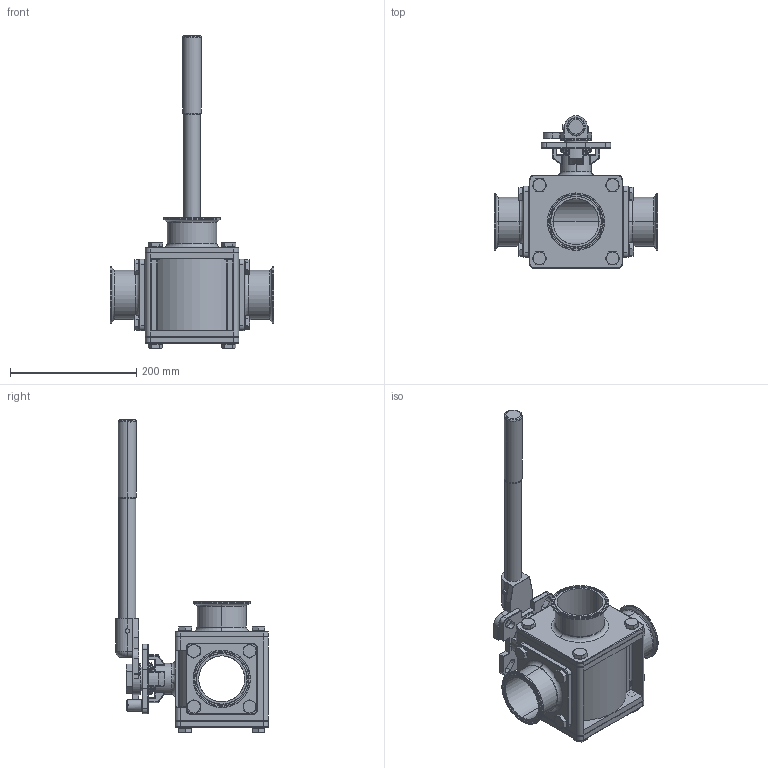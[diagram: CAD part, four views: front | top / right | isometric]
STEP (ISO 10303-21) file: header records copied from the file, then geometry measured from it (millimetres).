
FILE_DESCRIPTION (( 'STEP AP203' ), '1' );
FILE_NAME ('EG93CCC-63.0-T.STEP', '2019-07-02T02:30:24', ( '' ), ( '' ), 'SwSTEP 2.0', 'SolidWorks 2014', '' );
FILE_SCHEMA (( 'CONFIG_CONTROL_DESIGN' ));
Length unit declared in the file: millimetre
Products named in the file (27): 5.GASKET3.0; 8.STEM PACKING3.0-4.0; 17.LOCKING TAB3.0-4.0; 14.HANDLE3.0-4.0-2; 6.THRUST WASHER3.0-4.0; 18.THINNER NUT3.0-4.0; 22.SEAT-L-3.0; EG93CCC-63.0-T; 21.PLAIN WASHER3.0-4.0; 1.3WAY-BODY3.0; 7.O-RING3.0-4.0; 12.3WAY-NUT3.0-4.0; 14.HANDLE3.0-4.0-1; 11.STOP PIN3.0-4.0; 20.SEAT BACK3.0; 10.BEVEL WASHER3.0-4.0; 14.HANDLE2.5-4.0-3; 2.3WAY-CAP-C-3.0S; 2.3WAY-CAP-C-3.0B; 15.SPRING WASHER3.0; 9.RING3.0-4.0; 13.STEM3.0-4.0; 16.BOLT3.0; 3.3WAY-BALL-3.0-T; 4.SEAT1-3.0; 22.SEAT-R-3.0; 19.3WAY-CAP3.0
Assembly tree (60 placements, depth 2):
  EG93CCC-63.0-T
    1.3WAY-BODY3.0
    13.STEM3.0-4.0
    6.THRUST WASHER3.0-4.0
    7.O-RING3.0-4.0
    4.SEAT1-3.0  x2
    5.GASKET3.0  x2
    22.SEAT-L-3.0
    22.SEAT-R-3.0
    20.SEAT BACK3.0
    19.3WAY-CAP3.0
    16.BOLT3.0  x16
    15.SPRING WASHER3.0  x16
    2.3WAY-CAP-C-3.0S  x2
    2.3WAY-CAP-C-3.0B
    11.STOP PIN3.0-4.0
    8.STEM PACKING3.0-4.0
    9.RING3.0-4.0
    10.BEVEL WASHER3.0-4.0  x2
    18.THINNER NUT3.0-4.0
    17.LOCKING TAB3.0-4.0
    21.PLAIN WASHER3.0-4.0
    14.HANDLE3.0-4.0-1
    14.HANDLE3.0-4.0-2
    14.HANDLE2.5-4.0-3
    12.3WAY-NUT3.0-4.0
    3.3WAY-BALL-3.0-T
Bounding box: 260 x 242.39 x 495.7 mm (x, y, z)
Volume: 2907936.5 mm3; surface area: 806482.1 mm2
Topology: 61 solids, 61 shells, 1594 faces, 3589 edges, 2121 vertices
Faces by surface type: cylinder 572, plane 418, cone 266, torus 224, sphere 58, bspline 56
Entity records: 38320 total; most frequent: CARTESIAN_POINT 8911, DIRECTION 5909, ORIENTED_EDGE 5072, EDGE_CURVE 2536, AXIS2_PLACEMENT_3D 2507, VERTEX_POINT 1503, CIRCLE 1392, EDGE_LOOP 1225
